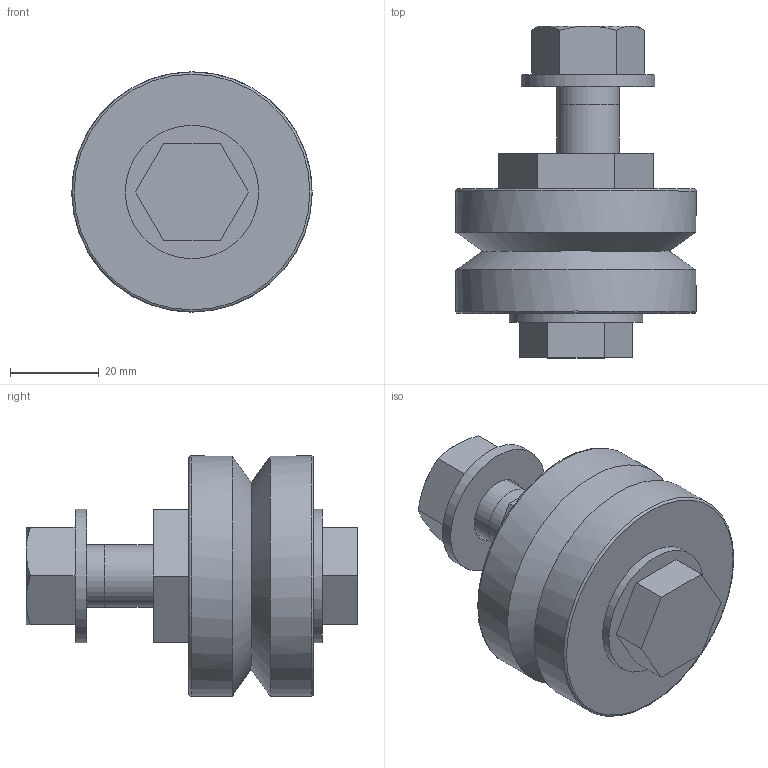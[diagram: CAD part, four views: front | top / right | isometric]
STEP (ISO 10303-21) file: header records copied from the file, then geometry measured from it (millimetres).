
FILE_DESCRIPTION(('STEP AP203'),'1');
FILE_NAME('//192.168.1.1/share/s-4 技術開発/s-4-4_CAD/s-4-4-6_見直し、確認済み/013 修正済み(済)/ジャーナル_TOP/NA/NA-20-E.step','2022-03-11T06:52:39',(' '),(' '),'Spatial InterOp 3D',' ',' ');
FILE_SCHEMA(('CONFIG_CONTROL_DESIGN'));
Length unit declared in the file: millimetre
Products named in the file (3): 1; 2; 3
Bounding box: 54 x 74.6 x 54 mm (x, y, z)
Volume: 79968.1 mm3; surface area: 16146.7 mm2
Topology: 3 solids, 3 shells, 50 faces, 113 edges, 72 vertices
Faces by surface type: plane 27, cone 12, cylinder 8, torus 2, sphere 1
Full cylindrical faces by diameter (mm): 12.5 x1, 14 x2, 15 x1, 30 x2, 54 x2
Entity records: 1761 total; most frequent: CARTESIAN_POINT 658, DIRECTION 198, ORIENTED_EDGE 176, EDGE_CURVE 88, AXIS2_PLACEMENT_3D 75, EDGE_LOOP 68, VERTEX_POINT 62, FACE_OUTER_BOUND 58
